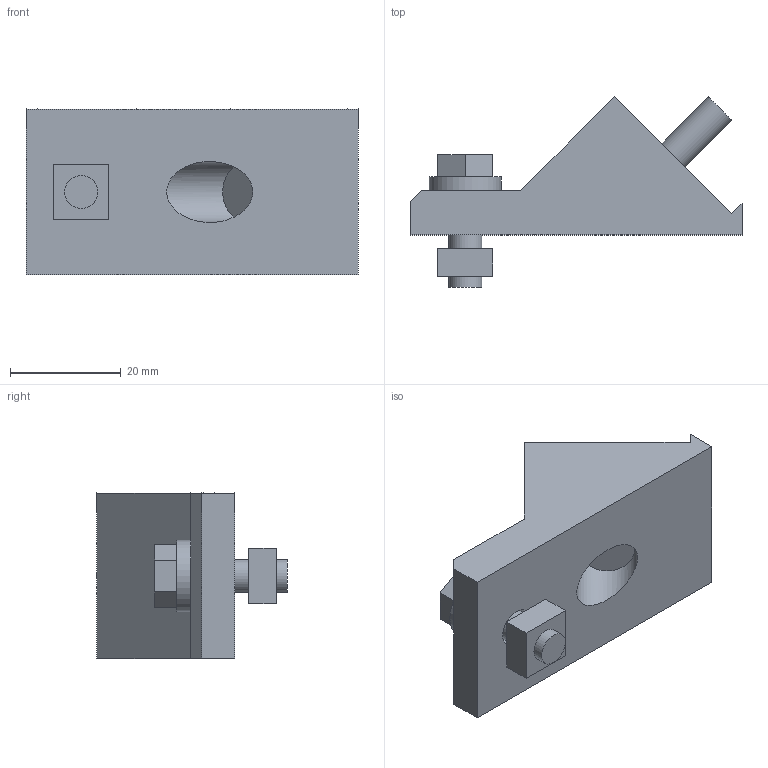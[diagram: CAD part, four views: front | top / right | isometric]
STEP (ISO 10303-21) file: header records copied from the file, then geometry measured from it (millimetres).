
FILE_DESCRIPTION((''),'2;1');
FILE_NAME('C:\Documents and Settings\古川典政\My Documents\Inventor\HP用\MasterData\BRACKET\M6\ABT-4530-6.stp','2008-07-31T09:23:50',(''),(''),'Autodesk Inventor 2008','Autodesk Inventor 2008','');
FILE_SCHEMA(('CONFIG_CONTROL_DESIGN'));
Length unit declared in the file: millimetre
Products named in the file (5): ABT-4530-6; ABT-4530-61; ABT-4530-62; ABT-4530-63; ABT-4530-64
Assembly tree (4 placements, depth 2):
  ABT-4530-6
    ABT-4530-61
    ABT-4530-62
    ABT-4530-63
    ABT-4530-64
Bounding box: 60 x 34.47 x 30 mm (x, y, z)
Volume: 23156.7 mm3; surface area: 8637.1 mm2
Topology: 4 solids, 4 shells, 40 faces, 85 edges, 58 vertices
Faces by surface type: plane 31, cylinder 7, bspline 2
Full cylindrical faces by diameter (mm): 6 x2, 6.4 x1, 6.6 x1, 10 x1, 11 x1, 13 x1
Entity records: 1166 total; most frequent: CARTESIAN_POINT 209, DIRECTION 184, ORIENTED_EDGE 144, EDGE_CURVE 72, AXIS2_PLACEMENT_3D 65, EDGE_LOOP 60, VERTEX_POINT 54, VECTOR 54
